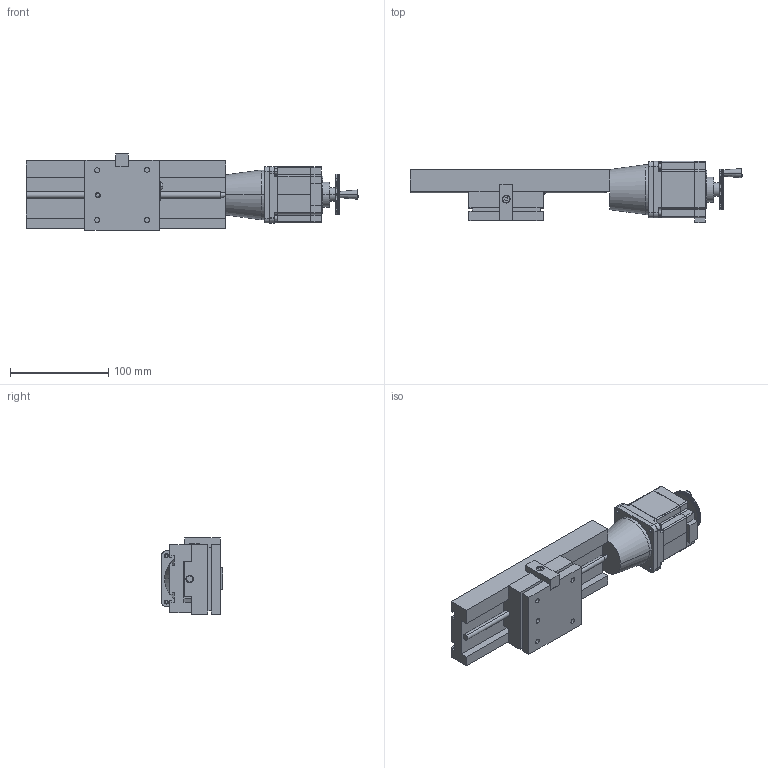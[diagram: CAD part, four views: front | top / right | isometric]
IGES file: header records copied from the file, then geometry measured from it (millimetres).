
Start section: Comment
Global section: file name: 6554-cnc.igs; native system:  By Spatial Corp.; preprocessor: XPlus PS/IGES 3.0; author: Author; organization: Title; date: 20190124.095337; units: inch
Bounding box: 338.14 x 62.31 x 77.48 mm (x, y, z)
Surface area: 148759.8 mm2 (no closed solid volume)
Topology: 0 solids, 0 shells, 856 faces, 4674 edges, 4674 vertices
Faces by surface type: extrusion 537, revolution 319
